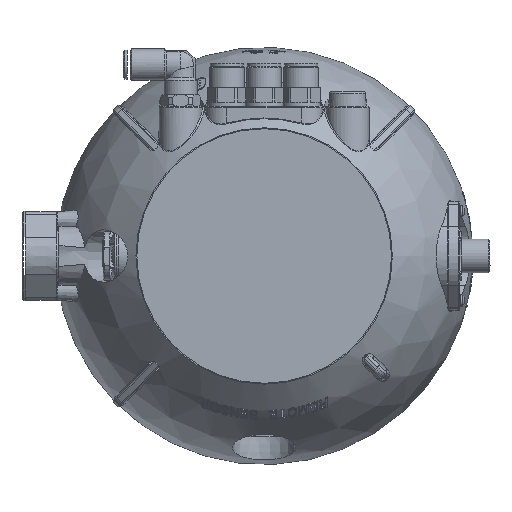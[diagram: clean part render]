
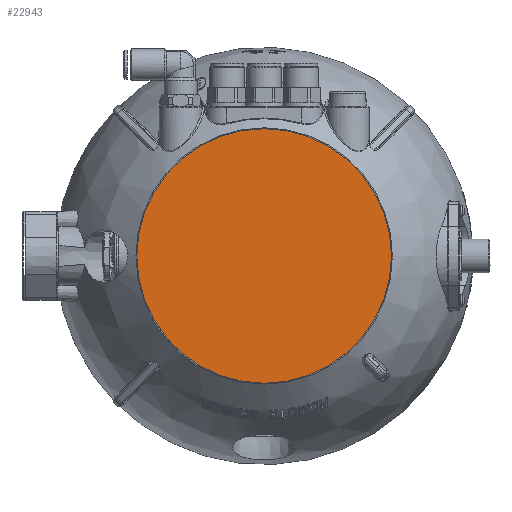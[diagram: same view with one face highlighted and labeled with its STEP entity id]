
A CAD part, front view. The second image highlights one B-rep face of the part: STEP entity #22943.
In plain terms, the highlighted planar face has unit normal (0, -1, 0).
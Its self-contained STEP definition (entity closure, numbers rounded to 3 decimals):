
#1802=PLANE('',#24263);
#2804=FACE_OUTER_BOUND('',#3395,.T.);
#3395=EDGE_LOOP('',(#17991));
#4374=CIRCLE('',#24264,44.247);
#8391=VERTEX_POINT('',#39020);
#12874=EDGE_CURVE('',#8391,#8391,#4374,.T.);
#17991=ORIENTED_EDGE('',*,*,#12874,.T.);
#22943=ADVANCED_FACE('',(#2804),#1802,.T.);
#24263=AXIS2_PLACEMENT_3D('',#39019,#29562,#29563);
#24264=AXIS2_PLACEMENT_3D('',#39021,#29564,#29565);
#29562=DIRECTION('center_axis',(0.,-1.,
0.));
#29563=DIRECTION('ref_axis',(1.,0.,0.));
#29564=DIRECTION('center_axis',(0.,-1.,
0.));
#29565=DIRECTION('ref_axis',(1.,0.,0.));
#39019=CARTESIAN_POINT('Origin',(0.,-1.869,
0.));
#39020=CARTESIAN_POINT('',(-44.247,-1.869,-0.001));
#39021=CARTESIAN_POINT('Origin',(0.,-1.869,
0.));
